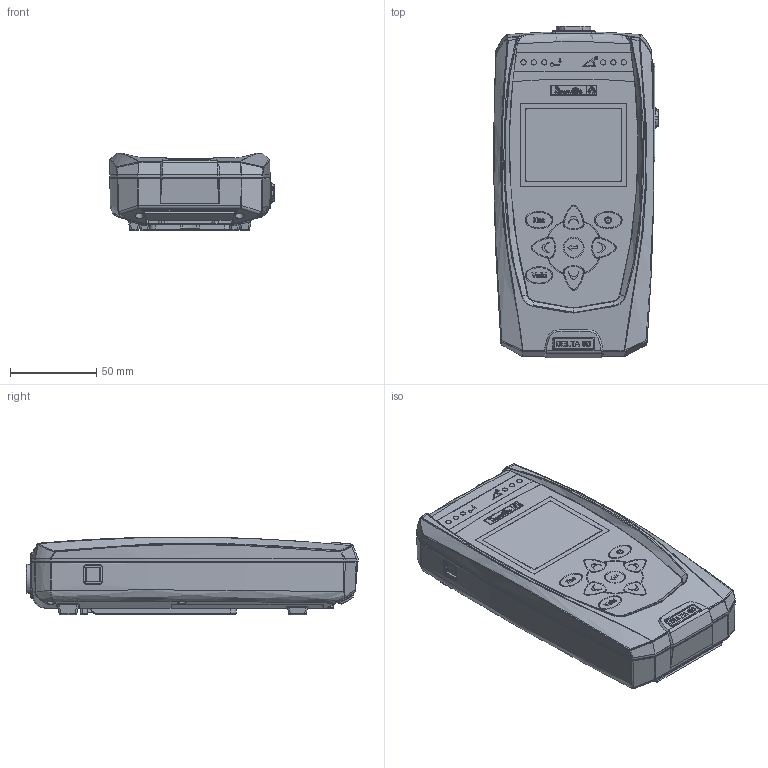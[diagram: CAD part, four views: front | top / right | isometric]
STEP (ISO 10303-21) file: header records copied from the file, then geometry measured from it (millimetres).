
FILE_DESCRIPTION( ( 'Unknown' ), '1' );
FILE_NAME( 'C:/Users/itdrc/Desktop/6159351020.stp', 'Unknown', ( 'Unknown' ), ( 'Unknown' ), 'PSStep 14.0', 'Unknown', ' ' );
FILE_SCHEMA( ( 'AUTOMOTIVE_DESIGN { 1 0 10303 214 1 1 1 1 }' ) );
Length unit declared in the file: millimetre
Products named in the file (44): Assem1; 249-002 rev03; 249-007 rev02; 249-009; 249-010; 249-011; 25165b-oa2; 25165c; 254-041 Rev00-oa13; 255-001 rev01; 255-002; 255-003 senza flat; 255-004; 255-008-oa3; 255-009-oa8; 255-013; 255-014; 255-015; 255-018; 255-025; 32179b; 50739-oa10; 50739-oa9; 54655; 54680; 54733; Connettore Ethernet MODS-F-8P8C-X-S-X-X-TH; MINI USB; SW3DPS-FISCHER DBPC 102 A053-130-DEFAULT-oa1; SW3DPS-FISCHER DECORATIVE M9X0_5-DEFAULT
Bounding box: 95.14 x 192.1 x 45.13 mm (x, y, z)
Surface area: 170445 mm2 (no closed solid volume)
Topology: 0 solids, 2424 shells, 2426 faces, 15926 edges, 15764 vertices
Faces by surface type: plane 978, cylinder 674, bspline 362, torus 154, cone 120, extrusion 74, sphere 44, offset 20
Full cylindrical faces by diameter (mm): 1.2 x22, 3 x16, 3.3 x2, 5 x2, 7.07 x2, 9 x4, 12 x2, 14 x2, 15.5 x2, 20 x2, 20.5 x2
Entity records: 115593 total; most frequent: CARTESIAN_POINT 50284, DIRECTION 10628, ORIENTED_EDGE 7860, EDGE_CURVE 7860, VERTEX_POINT 7860, VECTOR 4104, LINE 4067, AXIS2_PLACEMENT_3D 3262
